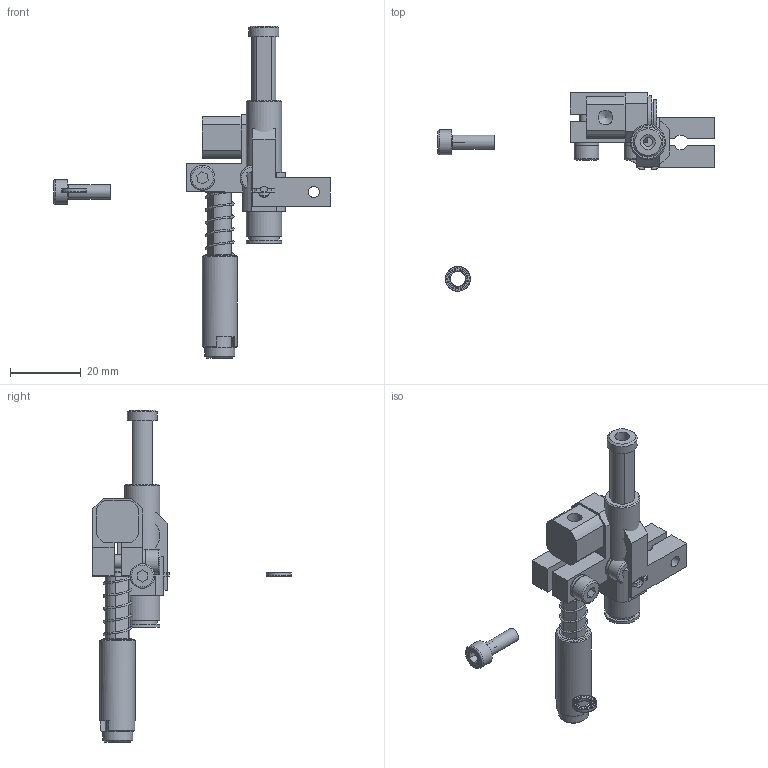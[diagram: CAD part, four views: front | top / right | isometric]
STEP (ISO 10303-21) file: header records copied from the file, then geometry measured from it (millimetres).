
FILE_DESCRIPTION( ( 'STEP AP214' ), '1' );
FILE_NAME( 'C:/Users/Segreteria/Desktop/CA.GGS100515.stp', '2014-07-02T08:09:40', ( ' ' ), ( ' ' ), 'XStep 1.0', ' ', ' ' );
FILE_SCHEMA( ( 'CONFIG_CONTROL_DESIGN) ( )' ) );
Length unit declared in the file: metre
Products named in the file (14): Assem1; 05.01.005.07; A-Ela  10; V-tcei M  4 x 12; R.4.SCH; M8x26.6N; 05.01.005.08; GGS.01.01; GGS.02.01
Bounding box: 78.25 x 56.14 x 94 mm (x, y, z)
Volume: 14610.5 mm3; surface area: 15956.6 mm2
Topology: 24 solids, 27 shells, 862 faces, 2401 edges, 1594 vertices
Faces by surface type: plane 734, cylinder 76, torus 32, cone 20
Full cylindrical faces by diameter (mm): 1.5 x4, 2.5 x2, 3.242 x4, 4 x4, 4.134 x4, 4.2 x8, 4.3 x3, 5 x2, 7 x9, 8.5 x2, 8.6 x2, 10 x6
Entity records: 10615 total; most frequent: CARTESIAN_POINT 1842, DIRECTION 1822, ORIENTED_EDGE 1666, EDGE_CURVE 833, AXIS2_PLACEMENT_3D 648, VERTEX_POINT 578, LINE 526, VECTOR 526
